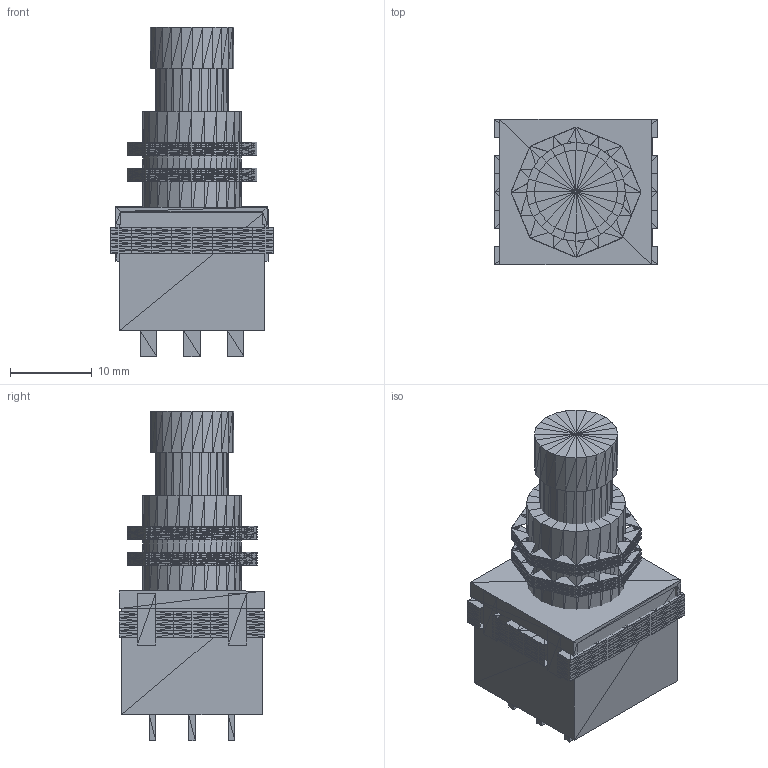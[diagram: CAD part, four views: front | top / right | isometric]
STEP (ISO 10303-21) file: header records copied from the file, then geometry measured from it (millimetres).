
FILE_DESCRIPTION(('HOOPS Exchange Step'),'2;1');
FILE_NAME('***.stp');
FILE_SCHEMA( ('AP242_MANAGED_MODEL_BASED_3D_ENGINEERING_MIM_LF {1 0 10303 442 1 1 4 }') );
Length unit declared in the file: inch
Products named in the file (22): SWPUSH3PDT_2; SWPUSH3PDT_3; SWPUSH3PDT_4; SWPUSH3PDT_5; SWPUSH3PDT_6; SWPUSH3PDT_7; SWPUSH3PDT_8; SWPUSH3PDT_9; SWPUSH3PDT_10; SWPUSH3PDT_11; SWPUSH3PDT_12; SWPUSH3PDT_13; SWPUSH3PDT_14; SWPUSH3PDT_15; SWPUSH3PDT_16; SWPUSH3PDT_17; SWPUSH3PDT_18; SWPUSH3PDT_19; SWPUSH3PDT_20; SWPUSH3PDT_21; SWPUSH3PDT_22; SWPUSH3PDT
Assembly tree (21 placements, depth 2):
  SWPUSH3PDT
    SWPUSH3PDT_2
    SWPUSH3PDT_3
    SWPUSH3PDT_4
    SWPUSH3PDT_5
    SWPUSH3PDT_6
    SWPUSH3PDT_7
    SWPUSH3PDT_8
    SWPUSH3PDT_9
    SWPUSH3PDT_10
    SWPUSH3PDT_11
    SWPUSH3PDT_12
    SWPUSH3PDT_13
    SWPUSH3PDT_14
    SWPUSH3PDT_15
    SWPUSH3PDT_16
    SWPUSH3PDT_17
    SWPUSH3PDT_18
    SWPUSH3PDT_19
    SWPUSH3PDT_20
    SWPUSH3PDT_21
    SWPUSH3PDT_22
Bounding box: 19.81 x 17.78 x 40.29 mm (x, y, z)
Surface area: 11704.5 mm2 (no closed solid volume)
Topology: 0 solids, 4390 shells, 4390 faces, 6446 edges, 4974 vertices
Faces by surface type: plane 4390
Entity records: 98332 total; most frequent: CARTESIAN_POINT 16210, DIRECTION 15828, ORIENTED_EDGE 13746, VECTOR 6576, LINE 6576, EDGE_CURVE 6576, VERTEX_POINT 5008, AXIS2_PLACEMENT_3D 4626
